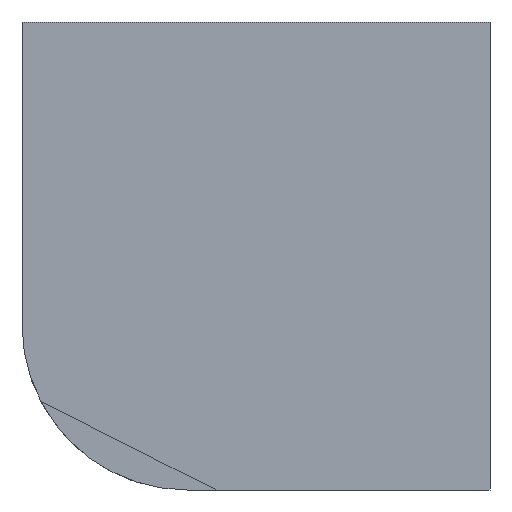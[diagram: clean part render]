
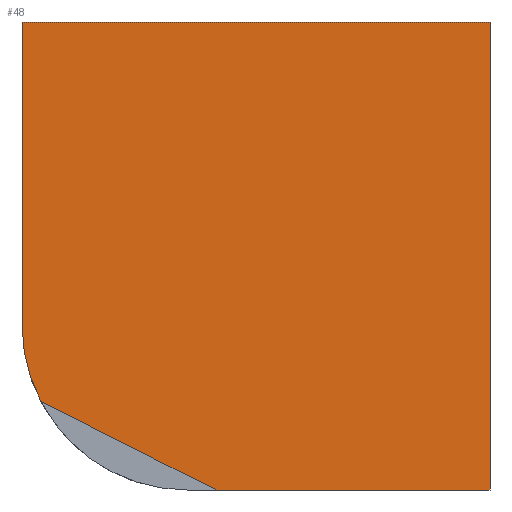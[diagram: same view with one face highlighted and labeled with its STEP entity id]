
A CAD part, left-side view. The second image highlights one B-rep face of the part: STEP entity #48.
In plain terms, the highlighted planar face has unit normal (-1, 0, 0).
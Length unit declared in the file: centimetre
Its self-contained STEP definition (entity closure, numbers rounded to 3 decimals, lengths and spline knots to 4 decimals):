
#4 = DIRECTION ( 'NONE',  ( 0., -1., 0. ) ) ;
#17 = EDGE_LOOP ( 'NONE', ( #309, #292, #65, #114, #305, #260 ) ) ;
#20 = CARTESIAN_POINT ( 'NONE',  ( 0., 0., 1000. ) ) ;
#27 = DIRECTION ( 'NONE',  ( 0., 0., -1. ) ) ;
#43 = EDGE_CURVE ( 'NONE', #105, #318, #138, .T. ) ;
#45 = LINE ( 'NONE', #126, #334 ) ;
#48 = ADVANCED_FACE ( 'NONE', ( #230 ), #226, .F. ) ;
#51 = DIRECTION ( 'NONE',  ( 0., 0., -1. ) ) ;
#57 = VECTOR ( 'NONE', #4, 100. ) ;
#65 = ORIENTED_EDGE ( 'NONE', *, *, #103, .T. ) ;
#80 = CARTESIAN_POINT ( 'NONE',  ( 0., 1000., 353.6152 ) ) ;
#97 = CARTESIAN_POINT ( 'NONE',  ( 0., 1000., 1000. ) ) ;
#103 = EDGE_CURVE ( 'NONE', #129, #318, #359, .T. ) ;
#105 = VERTEX_POINT ( 'NONE', #20 ) ;
#114 = ORIENTED_EDGE ( 'NONE', *, *, #43, .F. ) ;
#116 = EDGE_CURVE ( 'NONE', #340, #193, #45, .T. ) ;
#126 = CARTESIAN_POINT ( 'NONE',  ( 0., 1000., 1000. ) ) ;
#129 = VERTEX_POINT ( 'NONE', #188 ) ;
#138 = LINE ( 'NONE', #324, #369 ) ;
#143 = CARTESIAN_POINT ( 'NONE',  ( 0., 1000., 1000. ) ) ;
#170 = LINE ( 'NONE', #389, #320 ) ;
#177 = AXIS2_PLACEMENT_3D ( 'NONE', #213, #242, #307 ) ;
#181 = AXIS2_PLACEMENT_3D ( 'NONE', #143, #390, #392 ) ;
#188 = CARTESIAN_POINT ( 'NONE',  ( 0., 585.3208, 0. ) ) ;
#193 = VERTEX_POINT ( 'NONE', #80 ) ;
#196 = VERTEX_POINT ( 'NONE', #391 ) ;
#213 = CARTESIAN_POINT ( 'NONE',  ( 0., 646.3848, 353.6152 ) ) ;
#215 = LINE ( 'NONE', #344, #57 ) ;
#226 = PLANE ( 'NONE',  #181 ) ;
#227 = EDGE_CURVE ( 'NONE', #129, #196, #170, .T. ) ;
#230 = FACE_OUTER_BOUND ( 'NONE', #17, .T. ) ;
#242 = DIRECTION ( 'NONE',  ( -1., 0., 0. ) ) ;
#249 = CARTESIAN_POINT ( 'NONE',  ( 0., 0., 0. ) ) ;
#260 = ORIENTED_EDGE ( 'NONE', *, *, #116, .T. ) ;
#289 = DIRECTION ( 'NONE',  ( 0., 0.892, 0.452 ) ) ;
#291 = EDGE_CURVE ( 'NONE', #193, #196, #314, .T. ) ;
#292 = ORIENTED_EDGE ( 'NONE', *, *, #227, .F. ) ;
#305 = ORIENTED_EDGE ( 'NONE', *, *, #360, .F. ) ;
#307 = DIRECTION ( 'NONE',  ( 0., 0., -1. ) ) ;
#309 = ORIENTED_EDGE ( 'NONE', *, *, #291, .T. ) ;
#314 = CIRCLE ( 'NONE', #177, 353.6152 ) ;
#318 = VERTEX_POINT ( 'NONE', #249 ) ;
#320 = VECTOR ( 'NONE', #289, 100. ) ;
#324 = CARTESIAN_POINT ( 'NONE',  ( 0., 0., 1000. ) ) ;
#326 = DIRECTION ( 'NONE',  ( 0., -1., 0. ) ) ;
#334 = VECTOR ( 'NONE', #27, 100. ) ;
#340 = VERTEX_POINT ( 'NONE', #97 ) ;
#344 = CARTESIAN_POINT ( 'NONE',  ( 0., 1000., 1000. ) ) ;
#356 = CARTESIAN_POINT ( 'NONE',  ( 0., 1000., 0. ) ) ;
#359 = LINE ( 'NONE', #356, #370 ) ;
#360 = EDGE_CURVE ( 'NONE', #340, #105, #215, .T. ) ;
#369 = VECTOR ( 'NONE', #51, 100. ) ;
#370 = VECTOR ( 'NONE', #326, 100. ) ;
#389 = CARTESIAN_POINT ( 'NONE',  ( 0., 585.3208, 0. ) ) ;
#390 = DIRECTION ( 'NONE',  ( 1., 0., 0. ) ) ;
#391 = CARTESIAN_POINT ( 'NONE',  ( 0., 959.8577, 189.9739 ) ) ;
#392 = DIRECTION ( 'NONE',  ( 0., 0., -1. ) ) ;
